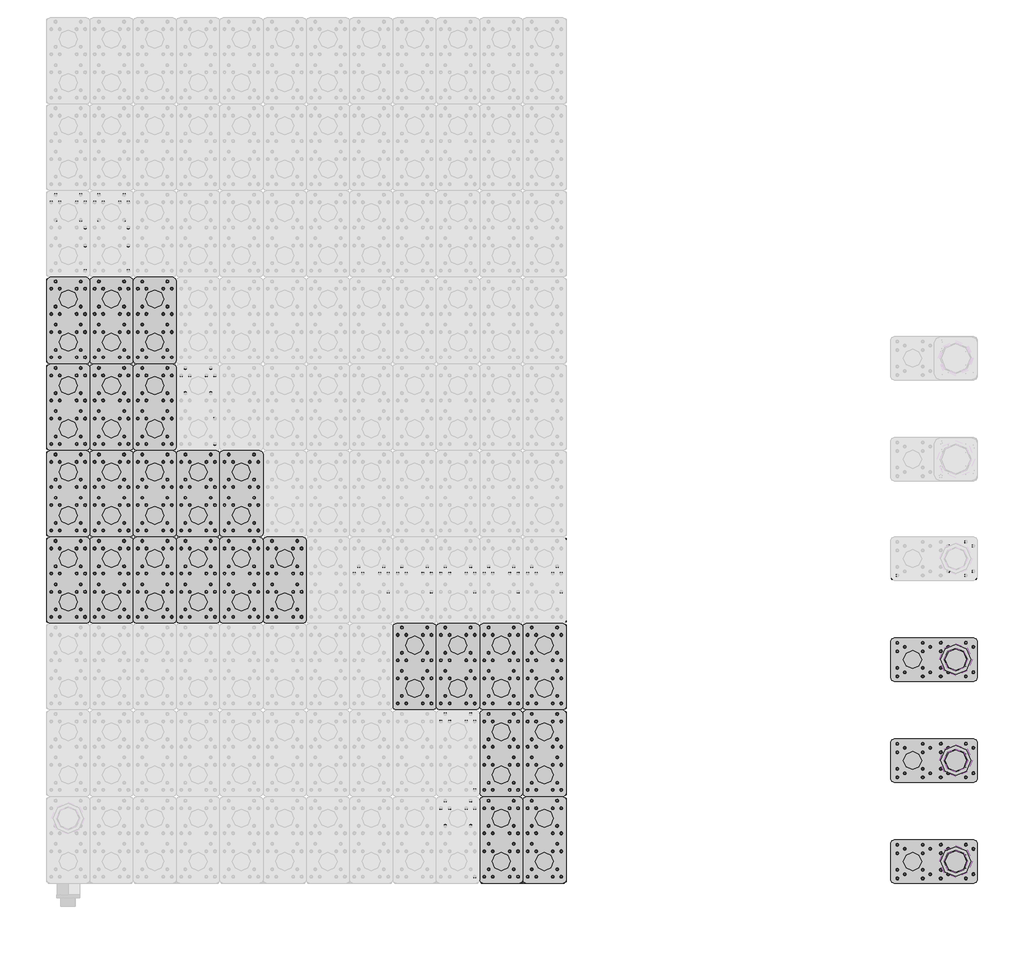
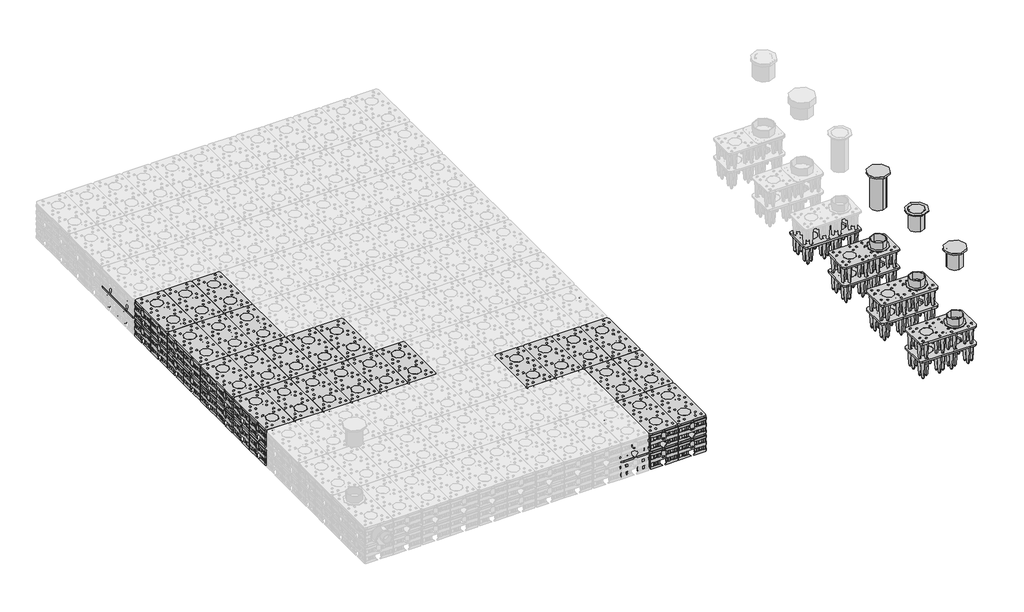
# One storey, part 2 of 6: 80 unitary equipment elements, 7 pipe fittings.
"""IFC4 building model written with IfcOpenShell, lengths in millimetres."""

from ifc_helpers import new_model, si_unit, origin, place, context, project, spatial, transform, mapped, element, save
from components import pipe_fitting_96394642, pipe_fitting_846650ca, pipe_fitting_315_cast_iron_ral9200_b04730d4, pipe_fitting_315_pp_ral9200_0fd825c0, std_96d167fa, unitary_equipment_315_mm_28b5e6e1, std_5ed7479e, std_ece4d7e7, std_5641c3e3, std_cb78f788, std_054ed5cf

model = new_model("IFC4")

# Units and contexts
model_context = context("Model", 3, world=origin())
ifc_project = project(units=[si_unit("LENGTHUNIT", "METRE", prefix="MILLI")], contexts=[model_context])

# Site, building, storey
site = spatial("IfcSite", under=ifc_project)
building = spatial("IfcBuilding", under=site)
storey = spatial("IfcBuildingStorey", under=building, Name="Aquacell", Elevation=-2300.0)

# Pipe fittings
placement = place(None, origin())
pipe_fitting_shape = pipe_fitting_96394642(model_context)
element("IfcPipeFitting", 1, ObjectType="Z_PIF_UN_Aquacell_NG_Telescopic_Pipe_PVC_Wavin_(nested) : DN315 L=375mm RAL8012", at=placement, inside=storey, context=model_context, shape_type="MappedRepresentation", body=[
    mapped(pipe_fitting_shape, transform((15086.051096, -4139.2220602, 165.0), x_axis=(0.0, -1.0, 0.0), y_axis=(1.0, 0.0, 0.0), z_axis=(0.0, 0.0, 1.0))),
])
element("IfcPipeFitting", 2, ObjectType="Z_PIF_UN_Aquacell_NG_Telescopic_Pipe_PVC_Wavin_(nested) : DN315 L=375mm RAL8012", at=placement, inside=storey, context=model_context, shape_type="MappedRepresentation", body=[
    mapped(pipe_fitting_shape, transform((15086.051096, -2739.2220602, 165.0), x_axis=(0.0, -1.0, 0.0), y_axis=(1.0, 0.0, 0.0), z_axis=(0.0, 0.0, 1.0))),
])
pipe_fitting_2_shape = pipe_fitting_846650ca(model_context)
element("IfcPipeFitting", 3, ObjectType="Z_PIF_UN_Aquacell_NG_Telescopic_Pipe_PVC_Wavin_(nested) : DN315 L=750mm RAL8012", at=placement, inside=storey, context=model_context, shape_type="MappedRepresentation", body=[
    mapped(pipe_fitting_2_shape, transform((15086.051096, -1339.2220602, 165.0), x_axis=(0.0, -1.0, 0.0), y_axis=(1.0, 0.0, 0.0), z_axis=(0.0, 0.0, 1.0))),
])
pipe_fitting_315_cast_iron_ral9200_shape = pipe_fitting_315_cast_iron_ral9200_b04730d4(model_context)
element("IfcPipeFitting", 4, ObjectType="Z_PIF_UN_Aquacell_NG_Round_Cover_Wavin_(nested) : 315 Cast iron, RAL9200", at=placement, inside=storey, context=model_context, shape_type="MappedRepresentation", body=[
    mapped(pipe_fitting_315_cast_iron_ral9200_shape, transform((15086.051096, -4139.2220602, 200.0), x_axis=(0.0, -1.0, 0.0), y_axis=(1.0, 0.0, 0.0), z_axis=(0.0, 0.0, 1.0))),
])
element("IfcPipeFitting", 5, ObjectType="Z_PIF_UN_Aquacell_NG_Round_Cover_Wavin_(nested) : 315 Cast iron, RAL9200", at=placement, inside=storey, context=model_context, shape_type="MappedRepresentation", body=[
    mapped(pipe_fitting_315_cast_iron_ral9200_shape, transform((15086.051096, -1339.2220602, 200.0), x_axis=(0.0, -1.0, 0.0), y_axis=(1.0, 0.0, 0.0), z_axis=(0.0, 0.0, 1.0))),
])
pipe_fitting_315_pp_ral9200_shape = pipe_fitting_315_pp_ral9200_0fd825c0(model_context)
element("IfcPipeFitting", 6, ObjectType="Z_PIF_UN_Aquacell_NG_Round_Cover_Wavin_(nested) : 315 PP, RAL9200", at=placement, inside=storey, context=model_context, shape_type="MappedRepresentation", body=[
    mapped(pipe_fitting_315_pp_ral9200_shape, transform((15086.051096, -2739.2220602, 200.0), x_axis=(0.0, -1.0, 0.0), y_axis=(1.0, 0.0, 0.0), z_axis=(0.0, 0.0, 1.0))),
])
std_shape = std_96d167fa(model_context)
element("IfcPipeFitting", 7, ObjectType="Z_PIF_UN_Aquacell_NG_Telescopic_Frame_Wavin_(nested) : std", at=placement, inside=storey, context=model_context, shape_type="MappedRepresentation", body=[
    mapped(std_shape, transform((15086.051096, -2739.2220602, 200.0), x_axis=(0.0, -1.0, 0.0), y_axis=(1.0, 0.0, 0.0), z_axis=(0.0, 0.0, 1.0))),
])

# Unitary equipment
unitary_equipment_315_mm_shape = unitary_equipment_315_mm_28b5e6e1(model_context)
element("IfcUnitaryEquipment", 8, ObjectType="Z_ME_UN_Aquacell_NG_Kit_Shaft_Connector_Wavin_(nested) : 315 mm", at=placement, inside=storey, context=model_context, shape_type="MappedRepresentation", body=[
    mapped(unitary_equipment_315_mm_shape, transform((15086.051096, -4139.2220602, -1475.0), x_axis=(1.0, 0.0, 0.0), y_axis=(0.0, 1.0, 0.0), z_axis=(0.0, 0.0, 1.0))),
])
element("IfcUnitaryEquipment", 9, ObjectType="Z_ME_UN_Aquacell_NG_Kit_Shaft_Connector_Wavin_(nested) : 315 mm", at=placement, inside=storey, context=model_context, shape_type="MappedRepresentation", body=[
    mapped(unitary_equipment_315_mm_shape, transform((15086.051096, -2739.2220602, -1475.0), x_axis=(1.0, 0.0, 0.0), y_axis=(0.0, 1.0, 0.0), z_axis=(0.0, 0.0, 1.0))),
])
element("IfcUnitaryEquipment", 10, ObjectType="Z_ME_UN_Aquacell_NG_Kit_Shaft_Connector_Wavin_(nested) : 315 mm", at=placement, inside=storey, context=model_context, shape_type="MappedRepresentation", body=[
    mapped(unitary_equipment_315_mm_shape, transform((15086.051096, -1339.2220602, -1475.0), x_axis=(1.0, 0.0, 0.0), y_axis=(0.0, 1.0, 0.0), z_axis=(0.0, 0.0, 1.0))),
])
std_2_shape = std_5ed7479e(model_context)
element("IfcUnitaryEquipment", 11, ObjectType="Z_ME_UN_Aquacell_NG_Lateral_Side_Plate_Wavin_(nested) : std", at=placement, inside=storey, context=model_context, shape_type="MappedRepresentation", body=[
    mapped(std_2_shape, transform((9686.051096, -2039.2220602, -2306.0), x_axis=(0.0, 1.0000000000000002, 0.0), y_axis=(-1.0000000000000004, 0.0, 0.0), z_axis=(0.0, 0.0, 1.0000000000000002))),
])
element("IfcUnitaryEquipment", 12, ObjectType="Z_ME_UN_Aquacell_NG_Lateral_Side_Plate_Wavin_(nested) : std", at=placement, inside=storey, context=model_context, shape_type="MappedRepresentation", body=[
    mapped(std_2_shape, transform((9686.051096, -2039.2220602, -1906.0), x_axis=(0.0, 1.0000000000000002, 0.0), y_axis=(-1.0000000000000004, 0.0, 0.0), z_axis=(0.0, 0.0, 1.0000000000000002))),
])
element("IfcUnitaryEquipment", 13, ObjectType="Z_ME_UN_Aquacell_NG_Lateral_Side_Plate_Wavin_(nested) : std", at=placement, inside=storey, context=model_context, shape_type="MappedRepresentation", body=[
    mapped(std_2_shape, transform((9686.051096, -3239.2220602, -2306.0), x_axis=(0.0, 1.0000000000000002, 0.0), y_axis=(-1.0000000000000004, 0.0, 0.0), z_axis=(0.0, 0.0, 1.0000000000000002))),
])
element("IfcUnitaryEquipment", 14, ObjectType="Z_ME_UN_Aquacell_NG_Lateral_Side_Plate_Wavin_(nested) : std", at=placement, inside=storey, context=model_context, shape_type="MappedRepresentation", body=[
    mapped(std_2_shape, transform((9686.051096, -3239.2220602, -1906.0), x_axis=(0.0, 1.0000000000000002, 0.0), y_axis=(-1.0000000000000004, 0.0, 0.0), z_axis=(0.0, 0.0, 1.0000000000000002))),
])
element("IfcUnitaryEquipment", 15, ObjectType="Z_ME_UN_Aquacell_NG_Lateral_Side_Plate_Wavin_(nested) : std", at=placement, inside=storey, context=model_context, shape_type="MappedRepresentation", body=[
    mapped(std_2_shape, transform((9686.051096, -4439.2220602, -2306.0), x_axis=(0.0, 1.0000000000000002, 0.0), y_axis=(-1.0000000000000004, 0.0, 0.0), z_axis=(0.0, 0.0, 1.0000000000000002))),
])
element("IfcUnitaryEquipment", 16, ObjectType="Z_ME_UN_Aquacell_NG_Lateral_Side_Plate_Wavin_(nested) : std", at=placement, inside=storey, context=model_context, shape_type="MappedRepresentation", body=[
    mapped(std_2_shape, transform((9686.051096, -4439.2220602, -1906.0), x_axis=(0.0, 1.0000000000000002, 0.0), y_axis=(-1.0000000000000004, 0.0, 0.0), z_axis=(0.0, 0.0, 1.0000000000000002))),
])
element("IfcUnitaryEquipment", 17, ObjectType="Z_ME_UN_Aquacell_NG_Lateral_Side_Plate_Wavin_(nested) : std", at=placement, inside=storey, context=model_context, shape_type="MappedRepresentation", body=[
    mapped(std_2_shape, transform((2486.051096, 360.7779398, -2306.0), x_axis=(0.0, -1.0000000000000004, 0.0), y_axis=(1.0000000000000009, 0.0, 0.0), z_axis=(0.0, 0.0, 1.0000000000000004))),
])
element("IfcUnitaryEquipment", 18, ObjectType="Z_ME_UN_Aquacell_NG_Lateral_Side_Plate_Wavin_(nested) : std", at=placement, inside=storey, context=model_context, shape_type="MappedRepresentation", body=[
    mapped(std_2_shape, transform((2486.051096, 360.7779398, -1906.0), x_axis=(0.0, -1.0000000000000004, 0.0), y_axis=(1.0000000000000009, 0.0, 0.0), z_axis=(0.0, 0.0, 1.0000000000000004))),
])
element("IfcUnitaryEquipment", 19, ObjectType="Z_ME_UN_Aquacell_NG_Lateral_Side_Plate_Wavin_(nested) : std", at=placement, inside=storey, context=model_context, shape_type="MappedRepresentation", body=[
    mapped(std_2_shape, transform((2486.051096, 1560.7779398, -1906.0), x_axis=(0.0, -1.0000000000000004, 0.0), y_axis=(1.0000000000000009, 0.0, 0.0), z_axis=(0.0, 0.0, 1.0000000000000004))),
])
element("IfcUnitaryEquipment", 20, ObjectType="Z_ME_UN_Aquacell_NG_Lateral_Side_Plate_Wavin_(nested) : std", at=placement, inside=storey, context=model_context, shape_type="MappedRepresentation", body=[
    mapped(std_2_shape, transform((2486.051096, 2760.7779398, -2306.0), x_axis=(0.0, -1.0000000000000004, 0.0), y_axis=(1.0000000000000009, 0.0, 0.0), z_axis=(0.0, 0.0, 1.0000000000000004))),
])
element("IfcUnitaryEquipment", 21, ObjectType="Z_ME_UN_Aquacell_NG_Lateral_Side_Plate_Wavin_(nested) : std", at=placement, inside=storey, context=model_context, shape_type="MappedRepresentation", body=[
    mapped(std_2_shape, transform((2486.051096, 3960.7779398, -2306.0), x_axis=(0.0, -1.0000000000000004, 0.0), y_axis=(1.0000000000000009, 0.0, 0.0), z_axis=(0.0, 0.0, 1.0000000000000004))),
])
element("IfcUnitaryEquipment", 22, ObjectType="Z_ME_UN_Aquacell_NG_Lateral_Side_Plate_Wavin_(nested) : std", at=placement, inside=storey, context=model_context, shape_type="MappedRepresentation", body=[
    mapped(std_2_shape, transform((2486.051096, 3960.7779398, -1906.0), x_axis=(0.0, -1.0000000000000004, 0.0), y_axis=(1.0000000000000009, 0.0, 0.0), z_axis=(0.0, 0.0, 1.0000000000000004))),
])
element("IfcUnitaryEquipment", 23, ObjectType="Z_ME_UN_Aquacell_NG_Lateral_Side_Plate_Wavin_(nested) : std", at=placement, inside=storey, context=model_context, shape_type="MappedRepresentation", body=[
    mapped(std_2_shape, transform((9686.051096, -839.2220602, -2306.0), x_axis=(0.0, 1.0000000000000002, 0.0), y_axis=(-1.0000000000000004, 0.0, 0.0), z_axis=(0.0, 0.0, 1.0000000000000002))),
])
element("IfcUnitaryEquipment", 24, ObjectType="Z_ME_UN_Aquacell_NG_Lateral_Side_Plate_Wavin_(nested) : std", at=placement, inside=storey, context=model_context, shape_type="MappedRepresentation", body=[
    mapped(std_2_shape, transform((9686.051096, -839.2220602, -1906.0), x_axis=(0.0, 1.0000000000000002, 0.0), y_axis=(-1.0000000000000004, 0.0, 0.0), z_axis=(0.0, 0.0, 1.0000000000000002))),
])
element("IfcUnitaryEquipment", 25, ObjectType="Z_ME_UN_Aquacell_NG_Lateral_Side_Plate_Wavin_(nested) : std", at=placement, inside=storey, context=model_context, shape_type="MappedRepresentation", body=[
    mapped(std_2_shape, transform((2486.051096, 1560.7779398, -2306.0), x_axis=(0.0, -1.0000000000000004, 0.0), y_axis=(1.0000000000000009, 0.0, 0.0), z_axis=(0.0, 0.0, 1.0000000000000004))),
])
element("IfcUnitaryEquipment", 26, ObjectType="Z_ME_UN_Aquacell_NG_Lateral_Side_Plate_Wavin_(nested) : std", at=placement, inside=storey, context=model_context, shape_type="MappedRepresentation", body=[
    mapped(std_2_shape, transform((2486.051096, 2760.7779398, -1906.0), x_axis=(0.0, -1.0000000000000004, 0.0), y_axis=(1.0000000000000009, 0.0, 0.0), z_axis=(0.0, 0.0, 1.0000000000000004))),
])
element("IfcUnitaryEquipment", 27, ObjectType="Z_ME_UN_Aquacell_NG_Lateral_Side_Plate_Wavin_(nested) : std", at=placement, inside=storey, context=model_context, shape_type="MappedRepresentation", body=[
    mapped(std_2_shape, transform((8486.051096, -4439.2220602, -2306.0), x_axis=(1.0, 0.0, 0.0), y_axis=(0.0, 1.0, 0.0), z_axis=(0.0, 0.0, 1.0))),
])
element("IfcUnitaryEquipment", 28, ObjectType="Z_ME_UN_Aquacell_NG_Lateral_Side_Plate_Wavin_(nested) : std", at=placement, inside=storey, context=model_context, shape_type="MappedRepresentation", body=[
    mapped(std_2_shape, transform((8486.051096, -4439.2220602, -1906.0), x_axis=(1.0, 0.0, 0.0), y_axis=(0.0, 1.0, 0.0), z_axis=(0.0, 0.0, 1.0))),
])
std_3_shape = std_ece4d7e7(model_context)
std_4_shape = std_5641c3e3(model_context)
element("IfcUnitaryEquipment", 29, ObjectType="Z_ME_UN_Aquacell_NG_Infiltration_Unit_Wavin_(nested) : std", at=placement, inside=storey, context=model_context, shape_type="MappedRepresentation", body=[
    mapped(std_3_shape, transform((9686.051096, -4439.2220602, -2475.0), x_axis=(0.0, 1.0000000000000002, 0.0), y_axis=(-1.0000000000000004, 0.0, 0.0), z_axis=(0.0, 0.0, 1.0000000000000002))),
    mapped(std_4_shape, transform((9686.051096, -4439.2220602, -2475.0), x_axis=(0.0, 1.0000000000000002, 0.0), y_axis=(-1.0000000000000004, 0.0, 0.0), z_axis=(0.0, 0.0, 1.0000000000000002))),
])
element("IfcUnitaryEquipment", 30, ObjectType="Z_ME_UN_Aquacell_NG_Infiltration_Unit_Wavin_(nested) : std", at=placement, inside=storey, context=model_context, shape_type="MappedRepresentation", body=[
    mapped(std_3_shape, transform((9686.051096, -3239.2220602, -2475.0), x_axis=(0.0, 1.0000000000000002, 0.0), y_axis=(-1.0000000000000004, 0.0, 0.0), z_axis=(0.0, 0.0, 1.0000000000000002))),
    mapped(std_4_shape, transform((9686.051096, -3239.2220602, -2475.0), x_axis=(0.0, 1.0000000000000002, 0.0), y_axis=(-1.0000000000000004, 0.0, 0.0), z_axis=(0.0, 0.0, 1.0000000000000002))),
])
element("IfcUnitaryEquipment", 31, ObjectType="Z_ME_UN_Aquacell_NG_Infiltration_Unit_Wavin_(nested) : std", at=placement, inside=storey, context=model_context, shape_type="MappedRepresentation", body=[
    mapped(std_3_shape, transform((9086.051096, -4439.2220602, -2475.0), x_axis=(0.0, 1.0, 0.0), y_axis=(-1.0000000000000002, 0.0, 0.0), z_axis=(0.0, 0.0, 1.0000000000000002))),
    mapped(std_4_shape, transform((9086.051096, -4439.2220602, -2475.0), x_axis=(0.0, 1.0, 0.0), y_axis=(-1.0000000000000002, 0.0, 0.0), z_axis=(0.0, 0.0, 1.0000000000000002))),
])
element("IfcUnitaryEquipment", 32, ObjectType="Z_ME_UN_Aquacell_NG_Infiltration_Unit_Wavin_(nested) : std", at=placement, inside=storey, context=model_context, shape_type="MappedRepresentation", body=[
    mapped(std_3_shape, transform((8486.051096, -4439.2220602, -2475.0), x_axis=(0.0, 1.0, 0.0), y_axis=(-1.0000000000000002, 0.0, 0.0), z_axis=(0.0, 0.0, 1.0000000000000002))),
    mapped(std_4_shape, transform((8486.051096, -4439.2220602, -2475.0), x_axis=(0.0, 1.0, 0.0), y_axis=(-1.0000000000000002, 0.0, 0.0), z_axis=(0.0, 0.0, 1.0000000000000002))),
])
element("IfcUnitaryEquipment", 33, ObjectType="Z_ME_UN_Aquacell_NG_Infiltration_Unit_Wavin_(nested) : std", at=placement, inside=storey, context=model_context, shape_type="MappedRepresentation", body=[
    mapped(std_3_shape, transform((9686.051096, -2039.2220602, -2475.0), x_axis=(0.0, 1.0, 0.0), y_axis=(-1.0000000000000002, 0.0, 0.0), z_axis=(0.0, 0.0, 1.0000000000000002))),
    mapped(std_4_shape, transform((9686.051096, -2039.2220602, -2475.0), x_axis=(0.0, 1.0, 0.0), y_axis=(-1.0000000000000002, 0.0, 0.0), z_axis=(0.0, 0.0, 1.0000000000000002))),
])
element("IfcUnitaryEquipment", 34, ObjectType="Z_ME_UN_Aquacell_NG_Infiltration_Unit_Wavin_(nested) : std", at=placement, inside=storey, context=model_context, shape_type="MappedRepresentation", body=[
    mapped(std_3_shape, transform((9686.051096, -839.2220602, -2475.0), x_axis=(0.0, 1.0, 0.0), y_axis=(-1.0000000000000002, 0.0, 0.0), z_axis=(0.0, 0.0, 1.0000000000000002))),
    mapped(std_4_shape, transform((9686.051096, -839.2220602, -2475.0), x_axis=(0.0, 1.0, 0.0), y_axis=(-1.0000000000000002, 0.0, 0.0), z_axis=(0.0, 0.0, 1.0000000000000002))),
])
element("IfcUnitaryEquipment", 35, ObjectType="Z_ME_UN_Aquacell_NG_Infiltration_Unit_Wavin_(nested) : std", at=placement, inside=storey, context=model_context, shape_type="MappedRepresentation", body=[
    mapped(std_3_shape, transform((9086.051096, -3239.2220602, -2475.0), x_axis=(0.0, 1.0, 0.0), y_axis=(-1.0000000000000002, 0.0, 0.0), z_axis=(0.0, 0.0, 1.0000000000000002))),
    mapped(std_4_shape, transform((9086.051096, -3239.2220602, -2475.0), x_axis=(0.0, 1.0, 0.0), y_axis=(-1.0000000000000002, 0.0, 0.0), z_axis=(0.0, 0.0, 1.0000000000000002))),
])
element("IfcUnitaryEquipment", 36, ObjectType="Z_ME_UN_Aquacell_NG_Infiltration_Unit_Wavin_(nested) : std", at=placement, inside=storey, context=model_context, shape_type="MappedRepresentation", body=[
    mapped(std_3_shape, transform((9086.051096, -2039.2220602, -2475.0), x_axis=(0.0, 1.0, 0.0), y_axis=(-1.0000000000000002, 0.0, 0.0), z_axis=(0.0, 0.0, 1.0000000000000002))),
    mapped(std_4_shape, transform((9086.051096, -2039.2220602, -2475.0), x_axis=(0.0, 1.0, 0.0), y_axis=(-1.0000000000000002, 0.0, 0.0), z_axis=(0.0, 0.0, 1.0000000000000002))),
])
element("IfcUnitaryEquipment", 37, ObjectType="Z_ME_UN_Aquacell_NG_Infiltration_Unit_Wavin_(nested) : std", at=placement, inside=storey, context=model_context, shape_type="MappedRepresentation", body=[
    mapped(std_3_shape, transform((9086.051096, -839.2220602, -2475.0), x_axis=(0.0, 1.0, 0.0), y_axis=(-1.0000000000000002, 0.0, 0.0), z_axis=(0.0, 0.0, 1.0000000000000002))),
    mapped(std_4_shape, transform((9086.051096, -839.2220602, -2475.0), x_axis=(0.0, 1.0, 0.0), y_axis=(-1.0000000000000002, 0.0, 0.0), z_axis=(0.0, 0.0, 1.0000000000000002))),
])
element("IfcUnitaryEquipment", 38, ObjectType="Z_ME_UN_Aquacell_NG_Infiltration_Unit_Wavin_(nested) : std", at=placement, inside=storey, context=model_context, shape_type="MappedRepresentation", body=[
    mapped(std_3_shape, transform((8486.051096, -3239.2220602, -2475.0), x_axis=(0.0, 1.0, 0.0), y_axis=(-1.0000000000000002, 0.0, 0.0), z_axis=(0.0, 0.0, 1.0000000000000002))),
    mapped(std_4_shape, transform((8486.051096, -3239.2220602, -2475.0), x_axis=(0.0, 1.0, 0.0), y_axis=(-1.0000000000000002, 0.0, 0.0), z_axis=(0.0, 0.0, 1.0000000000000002))),
])
element("IfcUnitaryEquipment", 39, ObjectType="Z_ME_UN_Aquacell_NG_Infiltration_Unit_Wavin_(nested) : std", at=placement, inside=storey, context=model_context, shape_type="MappedRepresentation", body=[
    mapped(std_3_shape, transform((8486.051096, -2039.2220602, -2475.0), x_axis=(0.0, 1.0, 0.0), y_axis=(-1.0000000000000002, 0.0, 0.0), z_axis=(0.0, 0.0, 1.0000000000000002))),
    mapped(std_4_shape, transform((8486.051096, -2039.2220602, -2475.0), x_axis=(0.0, 1.0, 0.0), y_axis=(-1.0000000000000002, 0.0, 0.0), z_axis=(0.0, 0.0, 1.0000000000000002))),
])
element("IfcUnitaryEquipment", 40, ObjectType="Z_ME_UN_Aquacell_NG_Infiltration_Unit_Wavin_(nested) : std", at=placement, inside=storey, context=model_context, shape_type="MappedRepresentation", body=[
    mapped(std_3_shape, transform((8486.051096, -839.2220602, -2475.0), x_axis=(0.0, 1.0, 0.0), y_axis=(-1.0000000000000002, 0.0, 0.0), z_axis=(0.0, 0.0, 1.0000000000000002))),
    mapped(std_4_shape, transform((8486.051096, -839.2220602, -2475.0), x_axis=(0.0, 1.0, 0.0), y_axis=(-1.0000000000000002, 0.0, 0.0), z_axis=(0.0, 0.0, 1.0000000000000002))),
])
element("IfcUnitaryEquipment", 41, ObjectType="Z_ME_UN_Aquacell_NG_Infiltration_Unit_Wavin_(nested) : std", at=placement, inside=storey, context=model_context, shape_type="MappedRepresentation", body=[
    mapped(std_3_shape, transform((7886.051096, -839.2220602, -2475.0), x_axis=(0.0, 1.0, 0.0), y_axis=(-1.0000000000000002, 0.0, 0.0), z_axis=(0.0, 0.0, 1.0000000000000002))),
    mapped(std_4_shape, transform((7886.051096, -839.2220602, -2475.0), x_axis=(0.0, 1.0, 0.0), y_axis=(-1.0000000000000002, 0.0, 0.0), z_axis=(0.0, 0.0, 1.0000000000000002))),
])
element("IfcUnitaryEquipment", 42, ObjectType="Z_ME_UN_Aquacell_NG_Infiltration_Unit_Wavin_(nested) : std", at=placement, inside=storey, context=model_context, shape_type="MappedRepresentation", body=[
    mapped(std_3_shape, transform((7286.051096, -839.2220602, -2475.0), x_axis=(0.0, 1.0, 0.0), y_axis=(-1.0000000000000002, 0.0, 0.0), z_axis=(0.0, 0.0, 1.0000000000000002))),
    mapped(std_4_shape, transform((7286.051096, -839.2220602, -2475.0), x_axis=(0.0, 1.0, 0.0), y_axis=(-1.0000000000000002, 0.0, 0.0), z_axis=(0.0, 0.0, 1.0000000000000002))),
])
element("IfcUnitaryEquipment", 43, ObjectType="Z_ME_UN_Aquacell_NG_Infiltration_Unit_Wavin_(nested) : std", at=placement, inside=storey, context=model_context, shape_type="MappedRepresentation", body=[
    mapped(std_3_shape, transform((5486.051096, 360.7779398, -2475.0), x_axis=(0.0, 1.0, 0.0), y_axis=(-1.0000000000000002, 0.0, 0.0), z_axis=(0.0, 0.0, 1.0000000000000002))),
    mapped(std_4_shape, transform((5486.051096, 360.7779398, -2475.0), x_axis=(0.0, 1.0, 0.0), y_axis=(-1.0000000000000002, 0.0, 0.0), z_axis=(0.0, 0.0, 1.0000000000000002))),
])
element("IfcUnitaryEquipment", 44, ObjectType="Z_ME_UN_Aquacell_NG_Infiltration_Unit_Wavin_(nested) : std", at=placement, inside=storey, context=model_context, shape_type="MappedRepresentation", body=[
    mapped(std_3_shape, transform((4886.051096, 360.7779398, -2475.0), x_axis=(0.0, 1.0, 0.0), y_axis=(-1.0000000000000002, 0.0, 0.0), z_axis=(0.0, 0.0, 1.0000000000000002))),
    mapped(std_4_shape, transform((4886.051096, 360.7779398, -2475.0), x_axis=(0.0, 1.0, 0.0), y_axis=(-1.0000000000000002, 0.0, 0.0), z_axis=(0.0, 0.0, 1.0000000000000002))),
])
element("IfcUnitaryEquipment", 45, ObjectType="Z_ME_UN_Aquacell_NG_Infiltration_Unit_Wavin_(nested) : std", at=placement, inside=storey, context=model_context, shape_type="MappedRepresentation", body=[
    mapped(std_3_shape, transform((4886.051096, 1560.7779398, -2475.0), x_axis=(0.0, 1.0, 0.0), y_axis=(-1.0000000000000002, 0.0, 0.0), z_axis=(0.0, 0.0, 1.0000000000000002))),
    mapped(std_4_shape, transform((4886.051096, 1560.7779398, -2475.0), x_axis=(0.0, 1.0, 0.0), y_axis=(-1.0000000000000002, 0.0, 0.0), z_axis=(0.0, 0.0, 1.0000000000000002))),
])
element("IfcUnitaryEquipment", 46, ObjectType="Z_ME_UN_Aquacell_NG_Infiltration_Unit_Wavin_(nested) : std", at=placement, inside=storey, context=model_context, shape_type="MappedRepresentation", body=[
    mapped(std_3_shape, transform((4286.051096, 360.7779398, -2475.0), x_axis=(0.0, 1.0, 0.0), y_axis=(-1.0000000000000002, 0.0, 0.0), z_axis=(0.0, 0.0, 1.0000000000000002))),
    mapped(std_4_shape, transform((4286.051096, 360.7779398, -2475.0), x_axis=(0.0, 1.0, 0.0), y_axis=(-1.0000000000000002, 0.0, 0.0), z_axis=(0.0, 0.0, 1.0000000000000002))),
])
element("IfcUnitaryEquipment", 47, ObjectType="Z_ME_UN_Aquacell_NG_Infiltration_Unit_Wavin_(nested) : std", at=placement, inside=storey, context=model_context, shape_type="MappedRepresentation", body=[
    mapped(std_3_shape, transform((4286.051096, 1560.7779398, -2475.0), x_axis=(0.0, 1.0, 0.0), y_axis=(-1.0000000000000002, 0.0, 0.0), z_axis=(0.0, 0.0, 1.0000000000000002))),
    mapped(std_4_shape, transform((4286.051096, 1560.7779398, -2475.0), x_axis=(0.0, 1.0, 0.0), y_axis=(-1.0000000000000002, 0.0, 0.0), z_axis=(0.0, 0.0, 1.0000000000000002))),
])
element("IfcUnitaryEquipment", 48, ObjectType="Z_ME_UN_Aquacell_NG_Infiltration_Unit_Wavin_(nested) : std", at=placement, inside=storey, context=model_context, shape_type="MappedRepresentation", body=[
    mapped(std_3_shape, transform((3686.051096, 360.7779398, -2475.0), x_axis=(0.0, 1.0, 0.0), y_axis=(-1.0000000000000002, 0.0, 0.0), z_axis=(0.0, 0.0, 1.0000000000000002))),
    mapped(std_4_shape, transform((3686.051096, 360.7779398, -2475.0), x_axis=(0.0, 1.0, 0.0), y_axis=(-1.0000000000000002, 0.0, 0.0), z_axis=(0.0, 0.0, 1.0000000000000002))),
])
element("IfcUnitaryEquipment", 49, ObjectType="Z_ME_UN_Aquacell_NG_Infiltration_Unit_Wavin_(nested) : std", at=placement, inside=storey, context=model_context, shape_type="MappedRepresentation", body=[
    mapped(std_3_shape, transform((3686.051096, 1560.7779398, -2475.0), x_axis=(0.0, 1.0, 0.0), y_axis=(-1.0000000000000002, 0.0, 0.0), z_axis=(0.0, 0.0, 1.0000000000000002))),
    mapped(std_4_shape, transform((3686.051096, 1560.7779398, -2475.0), x_axis=(0.0, 1.0, 0.0), y_axis=(-1.0000000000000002, 0.0, 0.0), z_axis=(0.0, 0.0, 1.0000000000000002))),
])
element("IfcUnitaryEquipment", 50, ObjectType="Z_ME_UN_Aquacell_NG_Infiltration_Unit_Wavin_(nested) : std", at=placement, inside=storey, context=model_context, shape_type="MappedRepresentation", body=[
    mapped(std_3_shape, transform((3686.051096, 2760.7779398, -2475.0), x_axis=(0.0, 1.0, 0.0), y_axis=(-1.0000000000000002, 0.0, 0.0), z_axis=(0.0, 0.0, 1.0000000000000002))),
    mapped(std_4_shape, transform((3686.051096, 2760.7779398, -2475.0), x_axis=(0.0, 1.0, 0.0), y_axis=(-1.0000000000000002, 0.0, 0.0), z_axis=(0.0, 0.0, 1.0000000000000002))),
])
element("IfcUnitaryEquipment", 51, ObjectType="Z_ME_UN_Aquacell_NG_Infiltration_Unit_Wavin_(nested) : std", at=placement, inside=storey, context=model_context, shape_type="MappedRepresentation", body=[
    mapped(std_3_shape, transform((3686.051096, 3960.7779398, -2475.0), x_axis=(0.0, 1.0, 0.0), y_axis=(-1.0000000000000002, 0.0, 0.0), z_axis=(0.0, 0.0, 1.0000000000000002))),
    mapped(std_4_shape, transform((3686.051096, 3960.7779398, -2475.0), x_axis=(0.0, 1.0, 0.0), y_axis=(-1.0000000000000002, 0.0, 0.0), z_axis=(0.0, 0.0, 1.0000000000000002))),
])
element("IfcUnitaryEquipment", 52, ObjectType="Z_ME_UN_Aquacell_NG_Infiltration_Unit_Wavin_(nested) : std", at=placement, inside=storey, context=model_context, shape_type="MappedRepresentation", body=[
    mapped(std_3_shape, transform((3086.051096, 360.7779398, -2475.0), x_axis=(0.0, 1.0, 0.0), y_axis=(-1.0000000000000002, 0.0, 0.0), z_axis=(0.0, 0.0, 1.0000000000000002))),
    mapped(std_4_shape, transform((3086.051096, 360.7779398, -2475.0), x_axis=(0.0, 1.0, 0.0), y_axis=(-1.0000000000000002, 0.0, 0.0), z_axis=(0.0, 0.0, 1.0000000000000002))),
])
element("IfcUnitaryEquipment", 53, ObjectType="Z_ME_UN_Aquacell_NG_Infiltration_Unit_Wavin_(nested) : std", at=placement, inside=storey, context=model_context, shape_type="MappedRepresentation", body=[
    mapped(std_3_shape, transform((3086.051096, 1560.7779398, -2475.0), x_axis=(0.0, 1.0, 0.0), y_axis=(-1.0000000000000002, 0.0, 0.0), z_axis=(0.0, 0.0, 1.0000000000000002))),
    mapped(std_4_shape, transform((3086.051096, 1560.7779398, -2475.0), x_axis=(0.0, 1.0, 0.0), y_axis=(-1.0000000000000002, 0.0, 0.0), z_axis=(0.0, 0.0, 1.0000000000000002))),
])
element("IfcUnitaryEquipment", 54, ObjectType="Z_ME_UN_Aquacell_NG_Infiltration_Unit_Wavin_(nested) : std", at=placement, inside=storey, context=model_context, shape_type="MappedRepresentation", body=[
    mapped(std_3_shape, transform((3086.051096, 2760.7779398, -2475.0), x_axis=(0.0, 1.0, 0.0), y_axis=(-1.0000000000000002, 0.0, 0.0), z_axis=(0.0, 0.0, 1.0000000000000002))),
    mapped(std_4_shape, transform((3086.051096, 2760.7779398, -2475.0), x_axis=(0.0, 1.0, 0.0), y_axis=(-1.0000000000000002, 0.0, 0.0), z_axis=(0.0, 0.0, 1.0000000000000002))),
])
element("IfcUnitaryEquipment", 55, ObjectType="Z_ME_UN_Aquacell_NG_Infiltration_Unit_Wavin_(nested) : std", at=placement, inside=storey, context=model_context, shape_type="MappedRepresentation", body=[
    mapped(std_3_shape, transform((3086.051096, 3960.7779398, -2475.0), x_axis=(0.0, 1.0, 0.0), y_axis=(-1.0000000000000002, 0.0, 0.0), z_axis=(0.0, 0.0, 1.0000000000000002))),
    mapped(std_4_shape, transform((3086.051096, 3960.7779398, -2475.0), x_axis=(0.0, 1.0, 0.0), y_axis=(-1.0000000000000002, 0.0, 0.0), z_axis=(0.0, 0.0, 1.0000000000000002))),
])
element("IfcUnitaryEquipment", 56, ObjectType="Z_ME_UN_Aquacell_NG_Infiltration_Unit_Wavin_(nested) : std", at=placement, inside=storey, context=model_context, shape_type="MappedRepresentation", body=[
    mapped(std_3_shape, transform((9086.051096, -3239.2220602, -2075.0), x_axis=(0.0, -1.0000000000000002, 0.0), y_axis=(1.0000000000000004, 0.0, 0.0), z_axis=(0.0, 0.0, 1.0000000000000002))),
    mapped(std_4_shape, transform((9086.051096, -3239.2220602, -2075.0), x_axis=(0.0, -1.0000000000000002, 0.0), y_axis=(1.0000000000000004, 0.0, 0.0), z_axis=(0.0, 0.0, 1.0000000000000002))),
])
element("IfcUnitaryEquipment", 57, ObjectType="Z_ME_UN_Aquacell_NG_Infiltration_Unit_Wavin_(nested) : std", at=placement, inside=storey, context=model_context, shape_type="MappedRepresentation", body=[
    mapped(std_3_shape, transform((9086.051096, -2039.2220602, -2075.0), x_axis=(0.0, -1.0000000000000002, 0.0), y_axis=(1.0000000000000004, 0.0, 0.0), z_axis=(0.0, 0.0, 1.0000000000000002))),
    mapped(std_4_shape, transform((9086.051096, -2039.2220602, -2075.0), x_axis=(0.0, -1.0000000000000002, 0.0), y_axis=(1.0000000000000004, 0.0, 0.0), z_axis=(0.0, 0.0, 1.0000000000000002))),
])
element("IfcUnitaryEquipment", 58, ObjectType="Z_ME_UN_Aquacell_NG_Infiltration_Unit_Wavin_(nested) : std", at=placement, inside=storey, context=model_context, shape_type="MappedRepresentation", body=[
    mapped(std_3_shape, transform((8486.051096, -3239.2220602, -2075.0), x_axis=(0.0, -1.0, 0.0), y_axis=(1.0000000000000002, 0.0, 0.0), z_axis=(0.0, 0.0, 1.0000000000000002))),
    mapped(std_4_shape, transform((8486.051096, -3239.2220602, -2075.0), x_axis=(0.0, -1.0, 0.0), y_axis=(1.0000000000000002, 0.0, 0.0), z_axis=(0.0, 0.0, 1.0000000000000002))),
])
element("IfcUnitaryEquipment", 59, ObjectType="Z_ME_UN_Aquacell_NG_Infiltration_Unit_Wavin_(nested) : std", at=placement, inside=storey, context=model_context, shape_type="MappedRepresentation", body=[
    mapped(std_3_shape, transform((9086.051096, -839.2220602, -2075.0), x_axis=(0.0, -1.0, 0.0), y_axis=(1.0000000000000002, 0.0, 0.0), z_axis=(0.0, 0.0, 1.0000000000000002))),
    mapped(std_4_shape, transform((9086.051096, -839.2220602, -2075.0), x_axis=(0.0, -1.0, 0.0), y_axis=(1.0000000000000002, 0.0, 0.0), z_axis=(0.0, 0.0, 1.0000000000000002))),
])
element("IfcUnitaryEquipment", 60, ObjectType="Z_ME_UN_Aquacell_NG_Infiltration_Unit_Wavin_(nested) : std", at=placement, inside=storey, context=model_context, shape_type="MappedRepresentation", body=[
    mapped(std_3_shape, transform((8486.051096, -2039.2220602, -2075.0), x_axis=(0.0, -1.0, 0.0), y_axis=(1.0000000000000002, 0.0, 0.0), z_axis=(0.0, 0.0, 1.0000000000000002))),
    mapped(std_4_shape, transform((8486.051096, -2039.2220602, -2075.0), x_axis=(0.0, -1.0, 0.0), y_axis=(1.0000000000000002, 0.0, 0.0), z_axis=(0.0, 0.0, 1.0000000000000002))),
])
element("IfcUnitaryEquipment", 61, ObjectType="Z_ME_UN_Aquacell_NG_Infiltration_Unit_Wavin_(nested) : std", at=placement, inside=storey, context=model_context, shape_type="MappedRepresentation", body=[
    mapped(std_3_shape, transform((8486.051096, -839.2220602, -2075.0), x_axis=(0.0, -1.0, 0.0), y_axis=(1.0000000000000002, 0.0, 0.0), z_axis=(0.0, 0.0, 1.0000000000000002))),
    mapped(std_4_shape, transform((8486.051096, -839.2220602, -2075.0), x_axis=(0.0, -1.0, 0.0), y_axis=(1.0000000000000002, 0.0, 0.0), z_axis=(0.0, 0.0, 1.0000000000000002))),
])
element("IfcUnitaryEquipment", 62, ObjectType="Z_ME_UN_Aquacell_NG_Infiltration_Unit_Wavin_(nested) : std", at=placement, inside=storey, context=model_context, shape_type="MappedRepresentation", body=[
    mapped(std_3_shape, transform((7886.051096, -839.2220602, -2075.0), x_axis=(0.0, -1.0, 0.0), y_axis=(1.0000000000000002, 0.0, 0.0), z_axis=(0.0, 0.0, 1.0000000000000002))),
    mapped(std_4_shape, transform((7886.051096, -839.2220602, -2075.0), x_axis=(0.0, -1.0, 0.0), y_axis=(1.0000000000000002, 0.0, 0.0), z_axis=(0.0, 0.0, 1.0000000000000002))),
])
element("IfcUnitaryEquipment", 63, ObjectType="Z_ME_UN_Aquacell_NG_Infiltration_Unit_Wavin_(nested) : std", at=placement, inside=storey, context=model_context, shape_type="MappedRepresentation", body=[
    mapped(std_3_shape, transform((7286.051096, -839.2220602, -2075.0), x_axis=(0.0, -1.0, 0.0), y_axis=(1.0000000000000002, 0.0, 0.0), z_axis=(0.0, 0.0, 1.0000000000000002))),
    mapped(std_4_shape, transform((7286.051096, -839.2220602, -2075.0), x_axis=(0.0, -1.0, 0.0), y_axis=(1.0000000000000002, 0.0, 0.0), z_axis=(0.0, 0.0, 1.0000000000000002))),
])
element("IfcUnitaryEquipment", 64, ObjectType="Z_ME_UN_Aquacell_NG_Infiltration_Unit_Wavin_(nested) : std", at=placement, inside=storey, context=model_context, shape_type="MappedRepresentation", body=[
    mapped(std_3_shape, transform((5486.051096, 360.7779398, -2075.0), x_axis=(0.0, -1.0, 0.0), y_axis=(1.0000000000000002, 0.0, 0.0), z_axis=(0.0, 0.0, 1.0000000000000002))),
    mapped(std_4_shape, transform((5486.051096, 360.7779398, -2075.0), x_axis=(0.0, -1.0, 0.0), y_axis=(1.0000000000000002, 0.0, 0.0), z_axis=(0.0, 0.0, 1.0000000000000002))),
])
element("IfcUnitaryEquipment", 65, ObjectType="Z_ME_UN_Aquacell_NG_Infiltration_Unit_Wavin_(nested) : std", at=placement, inside=storey, context=model_context, shape_type="MappedRepresentation", body=[
    mapped(std_3_shape, transform((4886.051096, 360.7779398, -2075.0), x_axis=(0.0, -1.0, 0.0), y_axis=(1.0000000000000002, 0.0, 0.0), z_axis=(0.0, 0.0, 1.0000000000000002))),
    mapped(std_4_shape, transform((4886.051096, 360.7779398, -2075.0), x_axis=(0.0, -1.0, 0.0), y_axis=(1.0000000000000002, 0.0, 0.0), z_axis=(0.0, 0.0, 1.0000000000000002))),
])
element("IfcUnitaryEquipment", 66, ObjectType="Z_ME_UN_Aquacell_NG_Infiltration_Unit_Wavin_(nested) : std", at=placement, inside=storey, context=model_context, shape_type="MappedRepresentation", body=[
    mapped(std_3_shape, transform((4886.051096, 1560.7779398, -2075.0), x_axis=(0.0, -1.0, 0.0), y_axis=(1.0000000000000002, 0.0, 0.0), z_axis=(0.0, 0.0, 1.0000000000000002))),
    mapped(std_4_shape, transform((4886.051096, 1560.7779398, -2075.0), x_axis=(0.0, -1.0, 0.0), y_axis=(1.0000000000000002, 0.0, 0.0), z_axis=(0.0, 0.0, 1.0000000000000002))),
])
element("IfcUnitaryEquipment", 67, ObjectType="Z_ME_UN_Aquacell_NG_Infiltration_Unit_Wavin_(nested) : std", at=placement, inside=storey, context=model_context, shape_type="MappedRepresentation", body=[
    mapped(std_3_shape, transform((4286.051096, 360.7779398, -2075.0), x_axis=(0.0, -1.0, 0.0), y_axis=(1.0000000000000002, 0.0, 0.0), z_axis=(0.0, 0.0, 1.0000000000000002))),
    mapped(std_4_shape, transform((4286.051096, 360.7779398, -2075.0), x_axis=(0.0, -1.0, 0.0), y_axis=(1.0000000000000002, 0.0, 0.0), z_axis=(0.0, 0.0, 1.0000000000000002))),
])
element("IfcUnitaryEquipment", 68, ObjectType="Z_ME_UN_Aquacell_NG_Infiltration_Unit_Wavin_(nested) : std", at=placement, inside=storey, context=model_context, shape_type="MappedRepresentation", body=[
    mapped(std_3_shape, transform((4286.051096, 1560.7779398, -2075.0), x_axis=(0.0, -1.0, 0.0), y_axis=(1.0000000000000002, 0.0, 0.0), z_axis=(0.0, 0.0, 1.0000000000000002))),
    mapped(std_4_shape, transform((4286.051096, 1560.7779398, -2075.0), x_axis=(0.0, -1.0, 0.0), y_axis=(1.0000000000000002, 0.0, 0.0), z_axis=(0.0, 0.0, 1.0000000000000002))),
])
element("IfcUnitaryEquipment", 69, ObjectType="Z_ME_UN_Aquacell_NG_Infiltration_Unit_Wavin_(nested) : std", at=placement, inside=storey, context=model_context, shape_type="MappedRepresentation", body=[
    mapped(std_3_shape, transform((3686.051096, 360.7779398, -2075.0), x_axis=(0.0, -1.0, 0.0), y_axis=(1.0000000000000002, 0.0, 0.0), z_axis=(0.0, 0.0, 1.0000000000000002))),
    mapped(std_4_shape, transform((3686.051096, 360.7779398, -2075.0), x_axis=(0.0, -1.0, 0.0), y_axis=(1.0000000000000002, 0.0, 0.0), z_axis=(0.0, 0.0, 1.0000000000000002))),
])
element("IfcUnitaryEquipment", 70, ObjectType="Z_ME_UN_Aquacell_NG_Infiltration_Unit_Wavin_(nested) : std", at=placement, inside=storey, context=model_context, shape_type="MappedRepresentation", body=[
    mapped(std_3_shape, transform((3686.051096, 1560.7779398, -2075.0), x_axis=(0.0, -1.0, 0.0), y_axis=(1.0000000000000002, 0.0, 0.0), z_axis=(0.0, 0.0, 1.0000000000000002))),
    mapped(std_4_shape, transform((3686.051096, 1560.7779398, -2075.0), x_axis=(0.0, -1.0, 0.0), y_axis=(1.0000000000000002, 0.0, 0.0), z_axis=(0.0, 0.0, 1.0000000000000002))),
])
element("IfcUnitaryEquipment", 71, ObjectType="Z_ME_UN_Aquacell_NG_Infiltration_Unit_Wavin_(nested) : std", at=placement, inside=storey, context=model_context, shape_type="MappedRepresentation", body=[
    mapped(std_3_shape, transform((3686.051096, 2760.7779398, -2075.0), x_axis=(0.0, -1.0, 0.0), y_axis=(1.0000000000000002, 0.0, 0.0), z_axis=(0.0, 0.0, 1.0000000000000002))),
    mapped(std_4_shape, transform((3686.051096, 2760.7779398, -2075.0), x_axis=(0.0, -1.0, 0.0), y_axis=(1.0000000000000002, 0.0, 0.0), z_axis=(0.0, 0.0, 1.0000000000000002))),
])
element("IfcUnitaryEquipment", 72, ObjectType="Z_ME_UN_Aquacell_NG_Infiltration_Unit_Wavin_(nested) : std", at=placement, inside=storey, context=model_context, shape_type="MappedRepresentation", body=[
    mapped(std_3_shape, transform((3686.051096, 3960.7779398, -2075.0), x_axis=(0.0, -1.0, 0.0), y_axis=(1.0000000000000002, 0.0, 0.0), z_axis=(0.0, 0.0, 1.0000000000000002))),
    mapped(std_4_shape, transform((3686.051096, 3960.7779398, -2075.0), x_axis=(0.0, -1.0, 0.0), y_axis=(1.0000000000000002, 0.0, 0.0), z_axis=(0.0, 0.0, 1.0000000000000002))),
])
element("IfcUnitaryEquipment", 73, ObjectType="Z_ME_UN_Aquacell_NG_Infiltration_Unit_Wavin_(nested) : std", at=placement, inside=storey, context=model_context, shape_type="MappedRepresentation", body=[
    mapped(std_3_shape, transform((3086.051096, 360.7779398, -2075.0), x_axis=(0.0, -1.0, 0.0), y_axis=(1.0000000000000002, 0.0, 0.0), z_axis=(0.0, 0.0, 1.0000000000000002))),
    mapped(std_4_shape, transform((3086.051096, 360.7779398, -2075.0), x_axis=(0.0, -1.0, 0.0), y_axis=(1.0000000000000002, 0.0, 0.0), z_axis=(0.0, 0.0, 1.0000000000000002))),
])
element("IfcUnitaryEquipment", 74, ObjectType="Z_ME_UN_Aquacell_NG_Infiltration_Unit_Wavin_(nested) : std", at=placement, inside=storey, context=model_context, shape_type="MappedRepresentation", body=[
    mapped(std_3_shape, transform((3086.051096, 1560.7779398, -2075.0), x_axis=(0.0, -1.0, 0.0), y_axis=(1.0000000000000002, 0.0, 0.0), z_axis=(0.0, 0.0, 1.0000000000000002))),
    mapped(std_4_shape, transform((3086.051096, 1560.7779398, -2075.0), x_axis=(0.0, -1.0, 0.0), y_axis=(1.0000000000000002, 0.0, 0.0), z_axis=(0.0, 0.0, 1.0000000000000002))),
])
element("IfcUnitaryEquipment", 75, ObjectType="Z_ME_UN_Aquacell_NG_Infiltration_Unit_Wavin_(nested) : std", at=placement, inside=storey, context=model_context, shape_type="MappedRepresentation", body=[
    mapped(std_3_shape, transform((3086.051096, 2760.7779398, -2075.0), x_axis=(0.0, -1.0, 0.0), y_axis=(1.0000000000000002, 0.0, 0.0), z_axis=(0.0, 0.0, 1.0000000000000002))),
    mapped(std_4_shape, transform((3086.051096, 2760.7779398, -2075.0), x_axis=(0.0, -1.0, 0.0), y_axis=(1.0000000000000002, 0.0, 0.0), z_axis=(0.0, 0.0, 1.0000000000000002))),
])
element("IfcUnitaryEquipment", 76, ObjectType="Z_ME_UN_Aquacell_NG_Infiltration_Unit_Wavin_(nested) : std", at=placement, inside=storey, context=model_context, shape_type="MappedRepresentation", body=[
    mapped(std_3_shape, transform((3086.051096, 3960.7779398, -2075.0), x_axis=(0.0, -1.0, 0.0), y_axis=(1.0000000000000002, 0.0, 0.0), z_axis=(0.0, 0.0, 1.0000000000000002))),
    mapped(std_4_shape, transform((3086.051096, 3960.7779398, -2075.0), x_axis=(0.0, -1.0, 0.0), y_axis=(1.0000000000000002, 0.0, 0.0), z_axis=(0.0, 0.0, 1.0000000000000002))),
])
element("IfcUnitaryEquipment", 77, ObjectType="Z_ME_UN_Aquacell_NG_Infiltration_Unit_Wavin_(nested) : std", at=placement, inside=storey, context=model_context, shape_type="MappedRepresentation", body=[
    mapped(std_3_shape, transform((2486.051096, 360.7779398, -2075.0), x_axis=(0.0, -1.0, 0.0), y_axis=(1.0000000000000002, 0.0, 0.0), z_axis=(0.0, 0.0, 1.0000000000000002))),
    mapped(std_4_shape, transform((2486.051096, 360.7779398, -2075.0), x_axis=(0.0, -1.0, 0.0), y_axis=(1.0000000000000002, 0.0, 0.0), z_axis=(0.0, 0.0, 1.0000000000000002))),
])
element("IfcUnitaryEquipment", 78, ObjectType="Z_ME_UN_Aquacell_NG_Infiltration_Unit_Wavin_(nested) : std", at=placement, inside=storey, context=model_context, shape_type="MappedRepresentation", body=[
    mapped(std_3_shape, transform((2486.051096, 1560.7779398, -2075.0), x_axis=(0.0, -1.0, 0.0), y_axis=(1.0000000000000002, 0.0, 0.0), z_axis=(0.0, 0.0, 1.0000000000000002))),
    mapped(std_4_shape, transform((2486.051096, 1560.7779398, -2075.0), x_axis=(0.0, -1.0, 0.0), y_axis=(1.0000000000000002, 0.0, 0.0), z_axis=(0.0, 0.0, 1.0000000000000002))),
])
element("IfcUnitaryEquipment", 79, ObjectType="Z_ME_UN_Aquacell_NG_Infiltration_Unit_Wavin_(nested) : std", at=placement, inside=storey, context=model_context, shape_type="MappedRepresentation", body=[
    mapped(std_3_shape, transform((2486.051096, 2760.7779398, -2075.0), x_axis=(0.0, -1.0, 0.0), y_axis=(1.0000000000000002, 0.0, 0.0), z_axis=(0.0, 0.0, 1.0000000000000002))),
    mapped(std_4_shape, transform((2486.051096, 2760.7779398, -2075.0), x_axis=(0.0, -1.0, 0.0), y_axis=(1.0000000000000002, 0.0, 0.0), z_axis=(0.0, 0.0, 1.0000000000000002))),
])
element("IfcUnitaryEquipment", 80, ObjectType="Z_ME_UN_Aquacell_NG_Infiltration_Unit_Wavin_(nested) : std", at=placement, inside=storey, context=model_context, shape_type="MappedRepresentation", body=[
    mapped(std_3_shape, transform((2486.051096, 3960.7779398, -2075.0), x_axis=(0.0, -1.0, 0.0), y_axis=(1.0000000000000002, 0.0, 0.0), z_axis=(0.0, 0.0, 1.0000000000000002))),
    mapped(std_4_shape, transform((2486.051096, 3960.7779398, -2075.0), x_axis=(0.0, -1.0, 0.0), y_axis=(1.0000000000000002, 0.0, 0.0), z_axis=(0.0, 0.0, 1.0000000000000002))),
])
std_5_shape = std_cb78f788(model_context)
element("IfcUnitaryEquipment", 81, ObjectType="Z_ME_UN_Aquacell_NG_Infiltration_Unit_Wavin_(nested) : std", at=placement, inside=storey, context=model_context, shape_type="MappedRepresentation", body=[
    mapped(std_5_shape, transform((14186.051096, -4439.2220602, -2475.0), x_axis=(1.0, 0.0, 0.0), y_axis=(0.0, 1.0, 0.0), z_axis=(0.0, 0.0, 1.0))),
    mapped(std_4_shape, transform((14186.051096, -4439.2220602, -2475.0), x_axis=(1.0, 0.0, 0.0), y_axis=(0.0, 1.0, 0.0), z_axis=(0.0, 0.0, 1.0))),
])
element("IfcUnitaryEquipment", 82, ObjectType="Z_ME_UN_Aquacell_NG_Infiltration_Unit_Wavin_(nested) : std", at=placement, inside=storey, context=model_context, shape_type="MappedRepresentation", body=[
    mapped(std_5_shape, transform((14186.051096, -3039.2220602, -2475.0), x_axis=(1.0, 0.0, 0.0), y_axis=(0.0, 1.0, 0.0), z_axis=(0.0, 0.0, 1.0))),
    mapped(std_4_shape, transform((14186.051096, -3039.2220602, -2475.0), x_axis=(1.0, 0.0, 0.0), y_axis=(0.0, 1.0, 0.0), z_axis=(0.0, 0.0, 1.0))),
])
element("IfcUnitaryEquipment", 83, ObjectType="Z_ME_UN_Aquacell_NG_Infiltration_Unit_Wavin_(nested) : std", at=placement, inside=storey, context=model_context, shape_type="MappedRepresentation", body=[
    mapped(std_5_shape, transform((14186.051096, -1639.2220602, -2475.0), x_axis=(1.0, 0.0, 0.0), y_axis=(0.0, 1.0, 0.0), z_axis=(0.0, 0.0, 1.0))),
    mapped(std_4_shape, transform((14186.051096, -1639.2220602, -2475.0), x_axis=(1.0, 0.0, 0.0), y_axis=(0.0, 1.0, 0.0), z_axis=(0.0, 0.0, 1.0))),
])
element("IfcUnitaryEquipment", 84, ObjectType="Z_ME_UN_Aquacell_NG_Infiltration_Unit_Wavin_(nested) : std", at=placement, inside=storey, context=model_context, shape_type="MappedRepresentation", body=[
    mapped(std_5_shape, transform((14186.051096, -239.2220602, -2475.0), x_axis=(1.0, 0.0, 0.0), y_axis=(0.0, 1.0, 0.0), z_axis=(0.0, 0.0, 1.0))),
    mapped(std_4_shape, transform((14186.051096, -239.2220602, -2475.0), x_axis=(1.0, 0.0, 0.0), y_axis=(0.0, 1.0, 0.0), z_axis=(0.0, 0.0, 1.0))),
])
std_6_shape = std_054ed5cf(model_context)
element("IfcUnitaryEquipment", 85, ObjectType="Z_ME_UN_Aquacell_NG_Infiltration_Unit_Wavin_(nested) : std", at=placement, inside=storey, context=model_context, shape_type="MappedRepresentation", body=[
    mapped(std_3_shape, transform((15386.051096, -3839.2220602, -2075.0), x_axis=(-1.0, 0.0, 0.0), y_axis=(0.0, -1.0, 0.0), z_axis=(0.0, 0.0, 1.0))),
    mapped(std_6_shape, transform((15386.051096, -3839.2220602, -2075.0), x_axis=(-1.0, 0.0, 0.0), y_axis=(0.0, -1.0, 0.0), z_axis=(0.0, 0.0, 1.0))),
])
element("IfcUnitaryEquipment", 86, ObjectType="Z_ME_UN_Aquacell_NG_Infiltration_Unit_Wavin_(nested) : std", at=placement, inside=storey, context=model_context, shape_type="MappedRepresentation", body=[
    mapped(std_3_shape, transform((15386.051096, -2439.2220602, -2075.0), x_axis=(-1.0, 0.0, 0.0), y_axis=(0.0, -1.0, 0.0), z_axis=(0.0, 0.0, 1.0))),
    mapped(std_6_shape, transform((15386.051096, -2439.2220602, -2075.0), x_axis=(-1.0, 0.0, 0.0), y_axis=(0.0, -1.0, 0.0), z_axis=(0.0, 0.0, 1.0))),
])
element("IfcUnitaryEquipment", 87, ObjectType="Z_ME_UN_Aquacell_NG_Infiltration_Unit_Wavin_(nested) : std", at=placement, inside=storey, context=model_context, shape_type="MappedRepresentation", body=[
    mapped(std_3_shape, transform((15386.051096, -1039.2220602, -2075.0), x_axis=(-1.0, 0.0, 0.0), y_axis=(0.0, -1.0, 0.0), z_axis=(0.0, 0.0, 1.0))),
    mapped(std_6_shape, transform((15386.051096, -1039.2220602, -2075.0), x_axis=(-1.0, 0.0, 0.0), y_axis=(0.0, -1.0, 0.0), z_axis=(0.0, 0.0, 1.0))),
])

save(model, "model.ifc")
